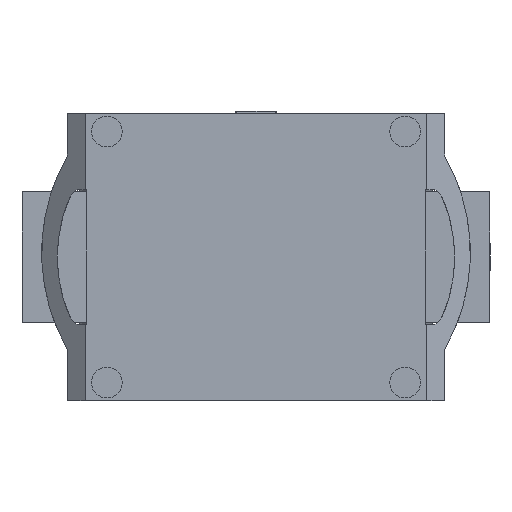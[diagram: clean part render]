
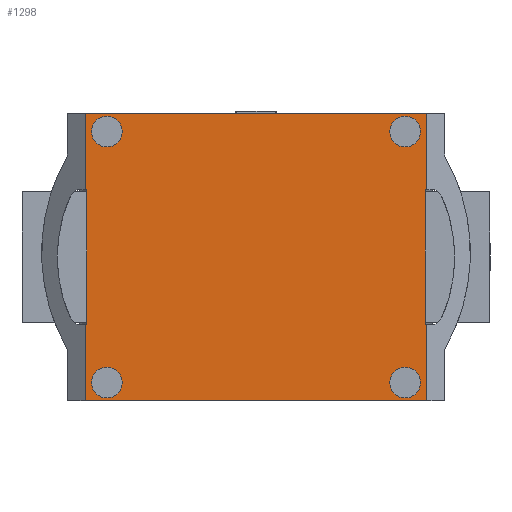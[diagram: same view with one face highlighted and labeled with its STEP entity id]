
A CAD part, front view. The second image highlights one B-rep face of the part: STEP entity #1298.
In plain terms, the highlighted planar face has unit normal (0, -1, 0).
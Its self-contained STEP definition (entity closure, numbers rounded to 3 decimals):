
#42=FACE_BOUND('',#458,.T.);
#43=FACE_BOUND('',#459,.T.);
#44=FACE_BOUND('',#460,.T.);
#45=FACE_BOUND('',#461,.T.);
#106=LINE('',#2105,#227);
#111=LINE('',#2117,#232);
#128=LINE('',#2165,#249);
#132=LINE('',#2172,#253);
#139=LINE('',#2191,#260);
#140=LINE('',#2192,#261);
#141=LINE('',#2194,#262);
#142=LINE('',#2196,#263);
#143=LINE('',#2197,#264);
#144=LINE('',#2198,#265);
#145=LINE('',#2200,#266);
#146=LINE('',#2201,#267);
#227=VECTOR('',#1680,10.);
#232=VECTOR('',#1687,10.);
#249=VECTOR('',#1730,10.);
#253=VECTOR('',#1734,10.);
#260=VECTOR('',#1751,10.);
#261=VECTOR('',#1752,10.);
#262=VECTOR('',#1753,10.);
#263=VECTOR('',#1754,10.);
#264=VECTOR('',#1755,10.);
#265=VECTOR('',#1756,10.);
#266=VECTOR('',#1757,10.);
#267=VECTOR('',#1758,10.);
#378=FACE_OUTER_BOUND('',#457,.T.);
#457=EDGE_LOOP('',(#1027,#1028,#1029,#1030,#1031,#1032,#1033,#1034,#1035,
#1036,#1037,#1038));
#458=EDGE_LOOP('',(#1039));
#459=EDGE_LOOP('',(#1040));
#460=EDGE_LOOP('',(#1041));
#461=EDGE_LOOP('',(#1042));
#525=CIRCLE('',#1455,13.);
#526=CIRCLE('',#1456,13.);
#527=CIRCLE('',#1457,13.);
#528=CIRCLE('',#1458,13.);
#585=VERTEX_POINT('',#2102);
#586=VERTEX_POINT('',#2104);
#591=VERTEX_POINT('',#2114);
#592=VERTEX_POINT('',#2116);
#609=VERTEX_POINT('',#2162);
#610=VERTEX_POINT('',#2164);
#612=VERTEX_POINT('',#2169);
#613=VERTEX_POINT('',#2171);
#620=VERTEX_POINT('',#2190);
#621=VERTEX_POINT('',#2193);
#622=VERTEX_POINT('',#2195);
#623=VERTEX_POINT('',#2199);
#624=VERTEX_POINT('',#2202);
#625=VERTEX_POINT('',#2204);
#626=VERTEX_POINT('',#2206);
#627=VERTEX_POINT('',#2208);
#728=EDGE_CURVE('',#585,#586,#106,.T.);
#734=EDGE_CURVE('',#592,#591,#111,.T.);
#758=EDGE_CURVE('',#609,#610,#128,.T.);
#762=EDGE_CURVE('',#613,#612,#132,.T.);
#772=EDGE_CURVE('',#613,#620,#139,.T.);
#773=EDGE_CURVE('',#586,#612,#140,.T.);
#774=EDGE_CURVE('',#585,#621,#141,.T.);
#775=EDGE_CURVE('',#622,#621,#142,.T.);
#776=EDGE_CURVE('',#592,#622,#143,.T.);
#777=EDGE_CURVE('',#591,#610,#144,.T.);
#778=EDGE_CURVE('',#609,#623,#145,.T.);
#779=EDGE_CURVE('',#623,#620,#146,.T.);
#780=EDGE_CURVE('',#624,#624,#525,.T.);
#781=EDGE_CURVE('',#625,#625,#526,.T.);
#782=EDGE_CURVE('',#626,#626,#527,.T.);
#783=EDGE_CURVE('',#627,#627,#528,.T.);
#1027=ORIENTED_EDGE('',*,*,#772,.F.);
#1028=ORIENTED_EDGE('',*,*,#762,.T.);
#1029=ORIENTED_EDGE('',*,*,#773,.F.);
#1030=ORIENTED_EDGE('',*,*,#728,.F.);
#1031=ORIENTED_EDGE('',*,*,#774,.T.);
#1032=ORIENTED_EDGE('',*,*,#775,.F.);
#1033=ORIENTED_EDGE('',*,*,#776,.F.);
#1034=ORIENTED_EDGE('',*,*,#734,.T.);
#1035=ORIENTED_EDGE('',*,*,#777,.T.);
#1036=ORIENTED_EDGE('',*,*,#758,.F.);
#1037=ORIENTED_EDGE('',*,*,#778,.T.);
#1038=ORIENTED_EDGE('',*,*,#779,.T.);
#1039=ORIENTED_EDGE('',*,*,#780,.F.);
#1040=ORIENTED_EDGE('',*,*,#781,.T.);
#1041=ORIENTED_EDGE('',*,*,#782,.F.);
#1042=ORIENTED_EDGE('',*,*,#783,.T.);
#1236=PLANE('',#1454);
#1298=ADVANCED_FACE('',(#378,#42,#43,#44,#45),#1236,.T.);
#1454=AXIS2_PLACEMENT_3D('',#2189,#1749,#1750);
#1455=AXIS2_PLACEMENT_3D('',#2203,#1759,#1760);
#1456=AXIS2_PLACEMENT_3D('',#2205,#1761,#1762);
#1457=AXIS2_PLACEMENT_3D('',#2207,#1763,#1764);
#1458=AXIS2_PLACEMENT_3D('',#2209,#1765,#1766);
#1680=DIRECTION('',(0.,0.,1.));
#1687=DIRECTION('',(0.,0.,-1.));
#1730=DIRECTION('',(0.,0.,-1.));
#1734=DIRECTION('',(0.,0.,1.));
#1749=DIRECTION('center_axis',(0.,-1.,0.));
#1750=DIRECTION('ref_axis',(1.,0.,0.));
#1751=DIRECTION('',(-1.,0.,0.001));
#1752=DIRECTION('',(1.,0.,0.));
#1753=DIRECTION('',(1.,0.,0.001));
#1754=DIRECTION('',(0.001,0.,1.));
#1755=DIRECTION('',(1.,0.,-0.001));
#1756=DIRECTION('',(1.,0.,0.));
#1757=DIRECTION('',(-1.,0.,-0.001));
#1758=DIRECTION('',(-0.001,0.,1.));
#1759=DIRECTION('center_axis',(0.,-1.,0.));
#1760=DIRECTION('ref_axis',(1.,0.,0.));
#1761=DIRECTION('center_axis',(0.,1.,0.));
#1762=DIRECTION('ref_axis',(-1.,0.,0.));
#1763=DIRECTION('center_axis',(0.,-1.,0.));
#1764=DIRECTION('ref_axis',(-1.,0.,0.));
#1765=DIRECTION('center_axis',(0.,1.,0.));
#1766=DIRECTION('ref_axis',(1.,0.,0.));
#2102=CARTESIAN_POINT('',(-144.207,0.,56.998));
#2104=CARTESIAN_POINT('',(-144.207,0.,121.2));
#2105=CARTESIAN_POINT('',(-144.207,0.,0.));
#2114=CARTESIAN_POINT('',(-144.207,0.,-121.2));
#2116=CARTESIAN_POINT('',(-144.207,0.,-56.998));
#2117=CARTESIAN_POINT('',(-144.207,0.,0.));
#2162=CARTESIAN_POINT('',(144.207,0.,-56.998));
#2164=CARTESIAN_POINT('',(144.207,0.,-121.2));
#2165=CARTESIAN_POINT('',(144.207,0.,0.));
#2169=CARTESIAN_POINT('',(144.207,0.,121.2));
#2171=CARTESIAN_POINT('',(144.207,0.,56.998));
#2172=CARTESIAN_POINT('',(144.207,0.,0.));
#2189=CARTESIAN_POINT('Origin',(-144.207,0.,0.));
#2190=CARTESIAN_POINT('',(142.789,0.,56.999));
#2191=CARTESIAN_POINT('',(146.583,0.,56.996));
#2192=CARTESIAN_POINT('',(-190.,0.,121.2));
#2193=CARTESIAN_POINT('',(-142.789,0.,56.999));
#2194=CARTESIAN_POINT('',(-146.583,0.,56.996));
#2195=CARTESIAN_POINT('',(-142.861,0.,-56.999));
#2196=CARTESIAN_POINT('',(-142.843,0.,-28.5));
#2197=CARTESIAN_POINT('',(-146.583,0.,-56.996));
#2198=CARTESIAN_POINT('',(-190.,0.,-121.2));
#2199=CARTESIAN_POINT('',(142.861,0.,-56.999));
#2200=CARTESIAN_POINT('',(146.583,0.,-56.996));
#2201=CARTESIAN_POINT('',(142.843,0.,-28.5));
#2202=CARTESIAN_POINT('',(-139.,0.,-106.));
#2203=CARTESIAN_POINT('Origin',(-126.,0.,-106.));
#2204=CARTESIAN_POINT('',(139.,0.,-106.));
#2205=CARTESIAN_POINT('Origin',(126.,0.,-106.));
#2206=CARTESIAN_POINT('',(139.,0.,106.));
#2207=CARTESIAN_POINT('Origin',(126.,0.,106.));
#2208=CARTESIAN_POINT('',(-139.,0.,106.));
#2209=CARTESIAN_POINT('Origin',(-126.,0.,106.));
